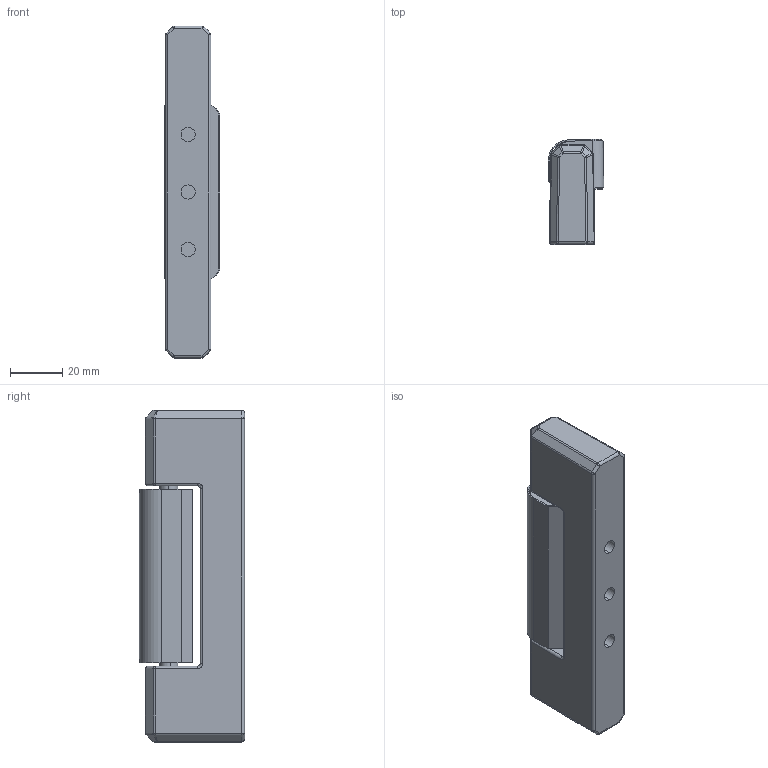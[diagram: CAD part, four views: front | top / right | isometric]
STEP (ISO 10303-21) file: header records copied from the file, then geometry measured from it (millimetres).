
FILE_DESCRIPTION (( 'STEP AP214' ), '1' );
FILE_NAME ('B5 KH-713.STEP', '2012-03-09T00:10:30', ( '' ), ( '' ), 'SwSTEP 2.0', 'SolidWorks 2012', '' );
FILE_SCHEMA (( 'AUTOMOTIVE_DESIGN' ));
Length unit declared in the file: millimetre
Products named in the file (6): PIN; CONTROL PLATE; CONECTED PLATE; BODY COVER; BODY; B5 KH-713
Assembly tree (6 placements, depth 2):
  B5 KH-713
    BODY
    BODY COVER
    CONECTED PLATE
    CONTROL PLATE
    PIN  x2
Bounding box: 21.28 x 40.19 x 127 mm (x, y, z)
Volume: 61762.8 mm3; surface area: 27296.2 mm2
Topology: 6 solids, 6 shells, 270 faces, 640 edges, 367 vertices
Faces by surface type: cylinder 127, plane 75, sphere 40, cone 20, bspline 4, torus 4
Entity records: 7861 total; most frequent: CARTESIAN_POINT 1521, DIRECTION 1385, ORIENTED_EDGE 1216, EDGE_CURVE 608, AXIS2_PLACEMENT_3D 533, VERTEX_POINT 355, LINE 319, VECTOR 319
